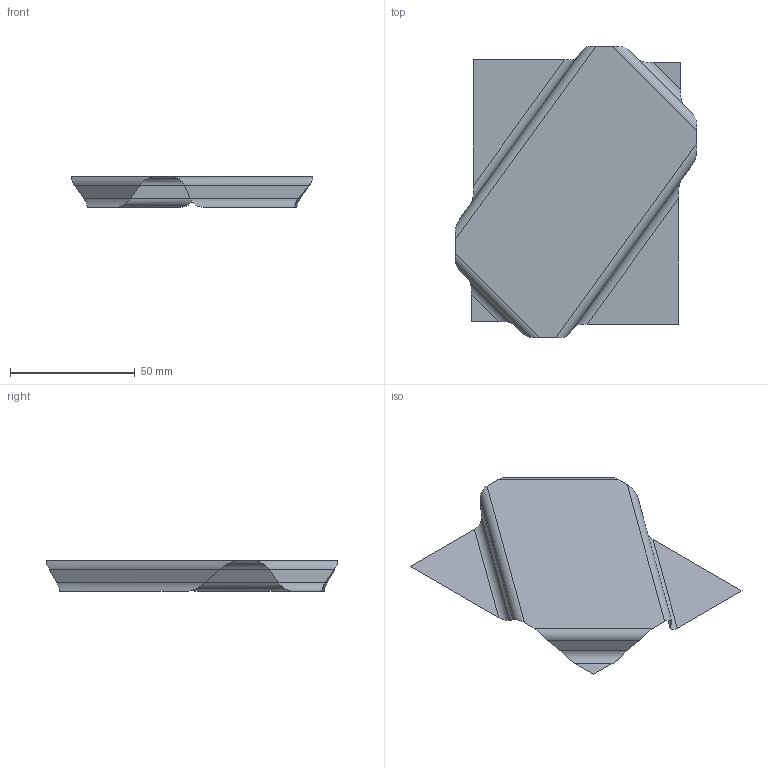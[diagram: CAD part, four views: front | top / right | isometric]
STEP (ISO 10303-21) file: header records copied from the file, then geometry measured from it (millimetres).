
FILE_DESCRIPTION(('CATIA V5 STEP Exchange'),'2;1');
FILE_NAME('C:\_Andres\UNIVERSIDAD\IQS\ASIGNATURAS\DAO\EXF\EXF-15161c\1original\Ferrer_Costa_Ej03-chapa_v7.stp','2016-03-04T16:55:44+00:00',('none'),('none'),'CATIA Version 5 Release 20 SP 1 (IN-10)','CATIA V5 STEP AP203','none');
FILE_SCHEMA(('CONFIG_CONTROL_DESIGN'));
Length unit declared in the file: millimetre
Products named in the file (1): Ferrer_Costa_Ej03-chapa_v7
Bounding box: 97.01 x 117.01 x 12.29 mm (x, y, z)
Surface area: 11387.7 mm2 (no closed solid volume)
Topology: 0 solids, 1 shells, 17 faces, 52 edges, 36 vertices
Faces by surface type: plane 9, cylinder 8
Entity records: 622 total; most frequent: CARTESIAN_POINT 203, ORIENTED_EDGE 68, DIRECTION 56, EDGE_CURVE 52, VERTEX_POINT 36, B_SPLINE_CURVE_WITH_KNOTS 32, VECTOR 20, LINE 20
